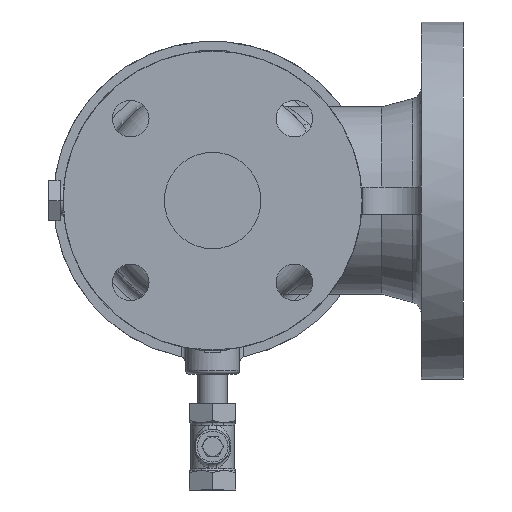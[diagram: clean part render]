
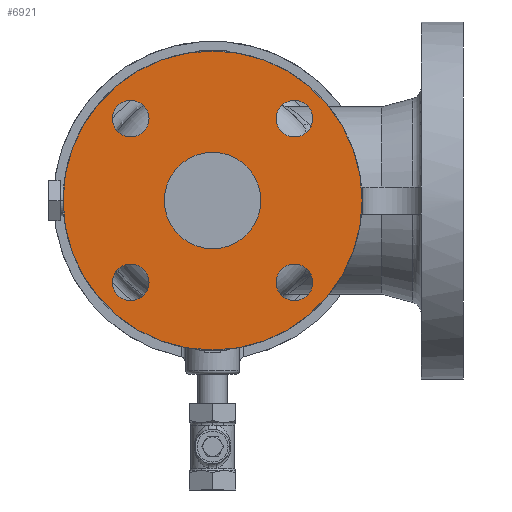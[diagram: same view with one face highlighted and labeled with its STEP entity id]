
A CAD part, front view. The second image highlights one B-rep face of the part: STEP entity #6921.
In plain terms, the highlighted planar face has unit normal (0, -1, 0).
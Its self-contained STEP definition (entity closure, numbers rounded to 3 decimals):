
#138 = VERTEX_POINT ( 'NONE', #5283 ) ;
#221 = DIRECTION ( 'NONE',  ( 1., 0., 0. ) ) ;
#281 = VERTEX_POINT ( 'NONE', #3314 ) ;
#353 = ORIENTED_EDGE ( 'NONE', *, *, #14318, .F. ) ;
#438 = FACE_BOUND ( 'NONE', #12344, .T. ) ;
#566 = EDGE_LOOP ( 'NONE', ( #5516, #6801 ) ) ;
#611 = CIRCLE ( 'NONE', #14406, 25. ) ;
#626 = AXIS2_PLACEMENT_3D ( 'NONE', #12454, #5915, #16119 ) ;
#891 = AXIS2_PLACEMENT_3D ( 'NONE', #15111, #5019, #3496 ) ;
#961 = VERTEX_POINT ( 'NONE', #10150 ) ;
#1277 = VERTEX_POINT ( 'NONE', #8908 ) ;
#1492 = CARTESIAN_POINT ( 'NONE',  ( -32.926, -130., -42.426 ) ) ;
#1634 = VERTEX_POINT ( 'NONE', #7796 ) ;
#1693 = DIRECTION ( 'NONE',  ( 0., -1., 0. ) ) ;
#1700 = CIRCLE ( 'NONE', #3860, 9.5 ) ;
#1701 = PLANE ( 'NONE',  #3322 ) ;
#1823 = ORIENTED_EDGE ( 'NONE', *, *, #13542, .F. ) ;
#1874 = DIRECTION ( 'NONE',  ( 0., -1., 0. ) ) ;
#2069 = EDGE_LOOP ( 'NONE', ( #12979, #14389 ) ) ;
#2091 = EDGE_CURVE ( 'NONE', #14402, #12682, #3664, .T. ) ;
#2168 = DIRECTION ( 'NONE',  ( 0., -1., 0. ) ) ;
#2181 = VERTEX_POINT ( 'NONE', #16080 ) ;
#2339 = DIRECTION ( 'NONE',  ( -1., 0., 0. ) ) ;
#2404 = CARTESIAN_POINT ( 'NONE',  ( 42.426, -130., 42.426 ) ) ;
#2547 = DIRECTION ( 'NONE',  ( 1., 0., 0. ) ) ;
#2972 = FACE_BOUND ( 'NONE', #7488, .T. ) ;
#2994 = CIRCLE ( 'NONE', #12208, 9.5 ) ;
#3314 = CARTESIAN_POINT ( 'NONE',  ( 77.5, -130., 0. ) ) ;
#3322 = AXIS2_PLACEMENT_3D ( 'NONE', #7991, #1874, #10779 ) ;
#3337 = AXIS2_PLACEMENT_3D ( 'NONE', #12960, #11527, #16705 ) ;
#3372 = EDGE_CURVE ( 'NONE', #281, #1634, #6167, .T. ) ;
#3496 = DIRECTION ( 'NONE',  ( 0., 0., 1. ) ) ;
#3615 = CARTESIAN_POINT ( 'NONE',  ( 42.426, -130., -42.426 ) ) ;
#3664 = CIRCLE ( 'NONE', #9889, 25. ) ;
#3756 = DIRECTION ( 'NONE',  ( 0., -1., 0. ) ) ;
#3828 = VERTEX_POINT ( 'NONE', #10617 ) ;
#3860 = AXIS2_PLACEMENT_3D ( 'NONE', #2404, #3756, #12825 ) ;
#4117 = DIRECTION ( 'NONE',  ( 0., -1., 0. ) ) ;
#4360 = EDGE_LOOP ( 'NONE', ( #353, #13274 ) ) ;
#4445 = CARTESIAN_POINT ( 'NONE',  ( 42.426, -130., 42.426 ) ) ;
#4516 = DIRECTION ( 'NONE',  ( 0., -1., 0. ) ) ;
#4608 = ORIENTED_EDGE ( 'NONE', *, *, #10696, .F. ) ;
#4696 = ORIENTED_EDGE ( 'NONE', *, *, #7247, .F. ) ;
#4927 = DIRECTION ( 'NONE',  ( 0., -1., 0. ) ) ;
#5019 = DIRECTION ( 'NONE',  ( 0., -1., 0. ) ) ;
#5283 = CARTESIAN_POINT ( 'NONE',  ( -51.926, -130., 42.426 ) ) ;
#5385 = CARTESIAN_POINT ( 'NONE',  ( 0., -130., 0. ) ) ;
#5471 = CARTESIAN_POINT ( 'NONE',  ( -25., -130., 0. ) ) ;
#5516 = ORIENTED_EDGE ( 'NONE', *, *, #16549, .F. ) ;
#5605 = CARTESIAN_POINT ( 'NONE',  ( -32.926, -130., 42.426 ) ) ;
#5693 = EDGE_CURVE ( 'NONE', #138, #12612, #6764, .T. ) ;
#5748 = DIRECTION ( 'NONE',  ( 1., 0., 0. ) ) ;
#5757 = FACE_BOUND ( 'NONE', #4360, .T. ) ;
#5791 = AXIS2_PLACEMENT_3D ( 'NONE', #16188, #1693, #5748 ) ;
#5842 = CARTESIAN_POINT ( 'NONE',  ( 25., -130., 0. ) ) ;
#5915 = DIRECTION ( 'NONE',  ( 0., -1., 0. ) ) ;
#6167 = CIRCLE ( 'NONE', #15925, 77.5 ) ;
#6570 = ORIENTED_EDGE ( 'NONE', *, *, #3372, .F. ) ;
#6764 = CIRCLE ( 'NONE', #12720, 9.5 ) ;
#6780 = FACE_BOUND ( 'NONE', #2069, .T. ) ;
#6801 = ORIENTED_EDGE ( 'NONE', *, *, #14073, .F. ) ;
#6921 = ADVANCED_FACE ( 'NONE', ( #6780, #14419, #5757, #2972, #438, #13479 ), #1701, .T. ) ;
#7247 = EDGE_CURVE ( 'NONE', #1634, #281, #7415, .T. ) ;
#7309 = ORIENTED_EDGE ( 'NONE', *, *, #14171, .F. ) ;
#7415 = CIRCLE ( 'NONE', #3337, 77.5 ) ;
#7488 = EDGE_LOOP ( 'NONE', ( #1823, #7309 ) ) ;
#7567 = CARTESIAN_POINT ( 'NONE',  ( -42.426, -130., -42.426 ) ) ;
#7760 = DIRECTION ( 'NONE',  ( 0., 1., 0. ) ) ;
#7796 = CARTESIAN_POINT ( 'NONE',  ( -77.5, -130., 0. ) ) ;
#7991 = CARTESIAN_POINT ( 'NONE',  ( -77.5, -130., 0. ) ) ;
#8695 = ORIENTED_EDGE ( 'NONE', *, *, #5693, .F. ) ;
#8908 = CARTESIAN_POINT ( 'NONE',  ( 32.926, -130., -42.426 ) ) ;
#9011 = CARTESIAN_POINT ( 'NONE',  ( 51.926, -130., -42.426 ) ) ;
#9802 = CIRCLE ( 'NONE', #11979, 9.5 ) ;
#9889 = AXIS2_PLACEMENT_3D ( 'NONE', #5385, #4117, #221 ) ;
#10112 = DIRECTION ( 'NONE',  ( 0., 0., 1. ) ) ;
#10150 = CARTESIAN_POINT ( 'NONE',  ( 51.926, -130., 42.426 ) ) ;
#10326 = DIRECTION ( 'NONE',  ( 0., -1., 0. ) ) ;
#10617 = CARTESIAN_POINT ( 'NONE',  ( -51.926, -130., -42.426 ) ) ;
#10651 = CIRCLE ( 'NONE', #626, 9.5 ) ;
#10696 = EDGE_CURVE ( 'NONE', #12612, #138, #13110, .T. ) ;
#10779 = DIRECTION ( 'NONE',  ( 1., 0., 0. ) ) ;
#11176 = EDGE_CURVE ( 'NONE', #1277, #12407, #2994, .T. ) ;
#11527 = DIRECTION ( 'NONE',  ( 0., 1., 0. ) ) ;
#11979 = AXIS2_PLACEMENT_3D ( 'NONE', #4445, #4516, #14780 ) ;
#12208 = AXIS2_PLACEMENT_3D ( 'NONE', #3615, #2168, #2339 ) ;
#12344 = EDGE_LOOP ( 'NONE', ( #4608, #8695 ) ) ;
#12348 = VERTEX_POINT ( 'NONE', #1492 ) ;
#12407 = VERTEX_POINT ( 'NONE', #9011 ) ;
#12454 = CARTESIAN_POINT ( 'NONE',  ( 42.426, -130., -42.426 ) ) ;
#12612 = VERTEX_POINT ( 'NONE', #5605 ) ;
#12682 = VERTEX_POINT ( 'NONE', #5471 ) ;
#12720 = AXIS2_PLACEMENT_3D ( 'NONE', #16524, #10326, #14052 ) ;
#12792 = CIRCLE ( 'NONE', #891, 9.5 ) ;
#12825 = DIRECTION ( 'NONE',  ( 0., 0., -1. ) ) ;
#12960 = CARTESIAN_POINT ( 'NONE',  ( 0., -130., 0. ) ) ;
#12979 = ORIENTED_EDGE ( 'NONE', *, *, #2091, .F. ) ;
#13110 = CIRCLE ( 'NONE', #5791, 9.5 ) ;
#13274 = ORIENTED_EDGE ( 'NONE', *, *, #11176, .F. ) ;
#13372 = EDGE_LOOP ( 'NONE', ( #4696, #6570 ) ) ;
#13479 = FACE_OUTER_BOUND ( 'NONE', #13372, .T. ) ;
#13542 = EDGE_CURVE ( 'NONE', #12348, #3828, #14136, .T. ) ;
#13873 = AXIS2_PLACEMENT_3D ( 'NONE', #7567, #4927, #10112 ) ;
#14052 = DIRECTION ( 'NONE',  ( 1., 0., 0. ) ) ;
#14073 = EDGE_CURVE ( 'NONE', #2181, #961, #9802, .T. ) ;
#14136 = CIRCLE ( 'NONE', #13873, 9.5 ) ;
#14171 = EDGE_CURVE ( 'NONE', #3828, #12348, #12792, .T. ) ;
#14318 = EDGE_CURVE ( 'NONE', #12407, #1277, #10651, .T. ) ;
#14355 = DIRECTION ( 'NONE',  ( -1., 0., 0. ) ) ;
#14389 = ORIENTED_EDGE ( 'NONE', *, *, #15528, .F. ) ;
#14402 = VERTEX_POINT ( 'NONE', #5842 ) ;
#14406 = AXIS2_PLACEMENT_3D ( 'NONE', #16632, #15349, #2547 ) ;
#14419 = FACE_BOUND ( 'NONE', #566, .T. ) ;
#14780 = DIRECTION ( 'NONE',  ( 0., 0., -1. ) ) ;
#15111 = CARTESIAN_POINT ( 'NONE',  ( -42.426, -130., -42.426 ) ) ;
#15301 = CARTESIAN_POINT ( 'NONE',  ( 0., -130., 0. ) ) ;
#15349 = DIRECTION ( 'NONE',  ( 0., -1., 0. ) ) ;
#15528 = EDGE_CURVE ( 'NONE', #12682, #14402, #611, .T. ) ;
#15925 = AXIS2_PLACEMENT_3D ( 'NONE', #15301, #7760, #14355 ) ;
#16080 = CARTESIAN_POINT ( 'NONE',  ( 32.926, -130., 42.426 ) ) ;
#16119 = DIRECTION ( 'NONE',  ( -1., 0., 0. ) ) ;
#16188 = CARTESIAN_POINT ( 'NONE',  ( -42.426, -130., 42.426 ) ) ;
#16524 = CARTESIAN_POINT ( 'NONE',  ( -42.426, -130., 42.426 ) ) ;
#16549 = EDGE_CURVE ( 'NONE', #961, #2181, #1700, .T. ) ;
#16632 = CARTESIAN_POINT ( 'NONE',  ( 0., -130., 0. ) ) ;
#16705 = DIRECTION ( 'NONE',  ( -1., 0., 0. ) ) ;
